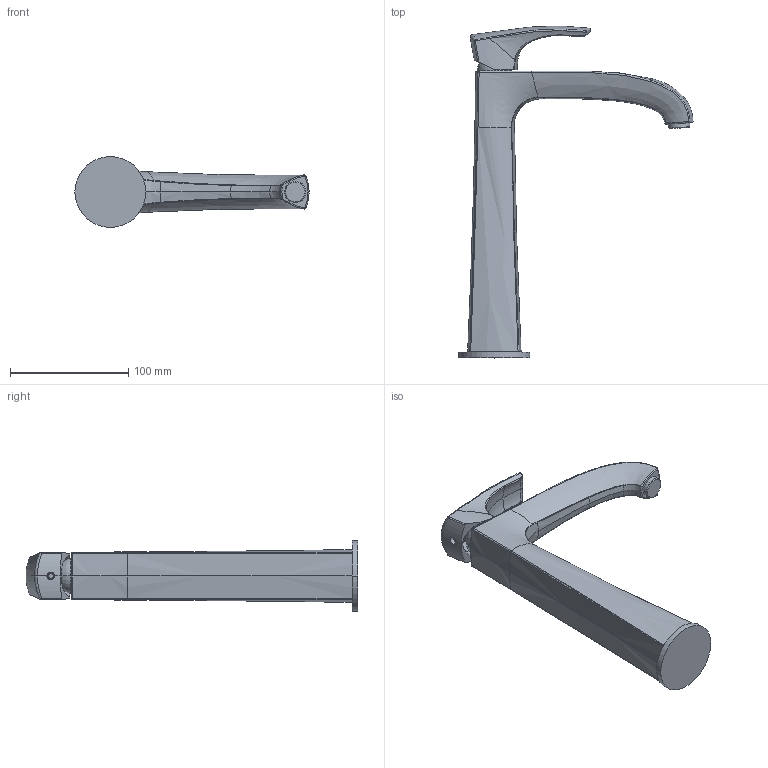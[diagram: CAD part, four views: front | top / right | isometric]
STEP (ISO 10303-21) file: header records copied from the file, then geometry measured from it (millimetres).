
FILE_DESCRIPTION(('CoCreate Modeling STEP Export'),'2;1');
FILE_NAME('LADY.579.stp','2012-06-04T 9:38:44',(''),(''),'CoCreate Modeling STEP processor for AP214 (Solid Model)','CoCreate Modeling 17.0 01-Apr-2010 (C) Parametric Technology GmbH','');
FILE_SCHEMA(('AUTOMOTIVE_DESIGN { 1 0 10303 214 1 1 1 1 }'));
Length unit declared in the file: millimetre
Products named in the file (1): Vol1à
Bounding box: 198.45 x 281.26 x 60 mm (x, y, z)
Surface area: 67716.2 mm2 (no closed solid volume)
Topology: 0 solids, 2 shells, 209 faces, 498 edges, 285 vertices
Faces by surface type: bspline 147, cylinder 25, plane 18, torus 15, cone 4
Entity records: 18646 total; most frequent: CARTESIAN_POINT 15044, ORIENTED_EDGE 980, EDGE_CURVE 490, DIRECTION 363, VERTEX_POINT 285, B_SPLINE_CURVE_WITH_KNOTS 245, EDGE_LOOP 213, FACE_OUTER_BOUND 209
